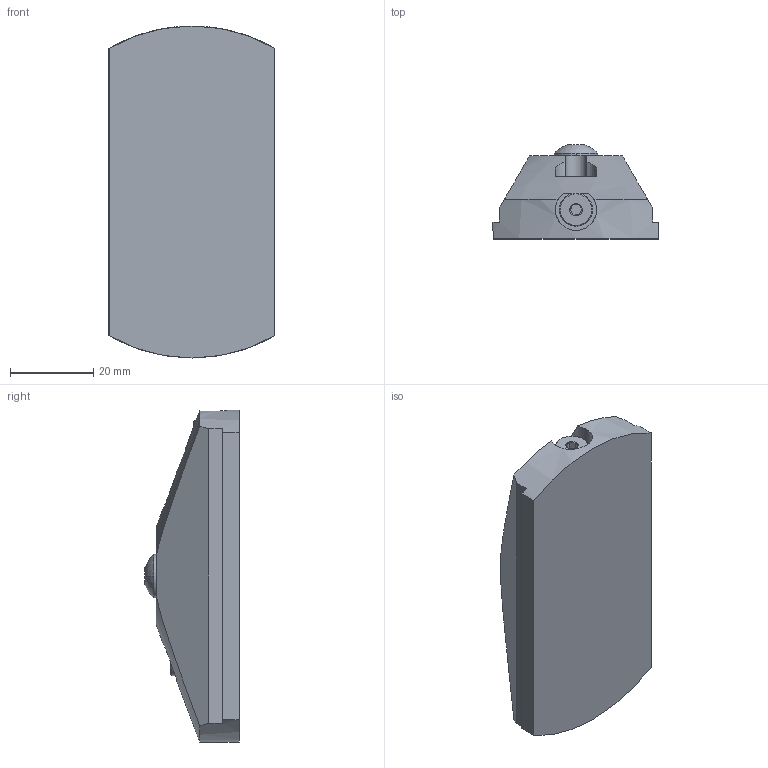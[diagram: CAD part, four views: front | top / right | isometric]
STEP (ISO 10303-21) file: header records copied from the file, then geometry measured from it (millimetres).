
FILE_DESCRIPTION (( 'STEP AP203' ), '1' );
FILE_NAME ('0004843 EZ-0075 40x80.STEP', '2022-01-19T14:11:40', ( '' ), ( '' ), 'SwSTEP 2.0', 'SolidWorks 2021', '' );
FILE_SCHEMA (( 'CONFIG_CONTROL_DESIGN' ));
Length unit declared in the file: millimetre
Products named in the file (1): 0004843 EZ-0075 40x80
Bounding box: 40 x 22.71 x 80 mm (x, y, z)
Volume: 42130.9 mm3; surface area: 10066.9 mm2
Topology: 4 solids, 4 shells, 127 faces, 308 edges, 193 vertices
Faces by surface type: plane 47, cylinder 43, cone 31, torus 4, sphere 2
Entity records: 3926 total; most frequent: CARTESIAN_POINT 885, DIRECTION 643, ORIENTED_EDGE 600, EDGE_CURVE 300, AXIS2_PLACEMENT_3D 257, VERTEX_POINT 193, EDGE_LOOP 141, VECTOR 129
